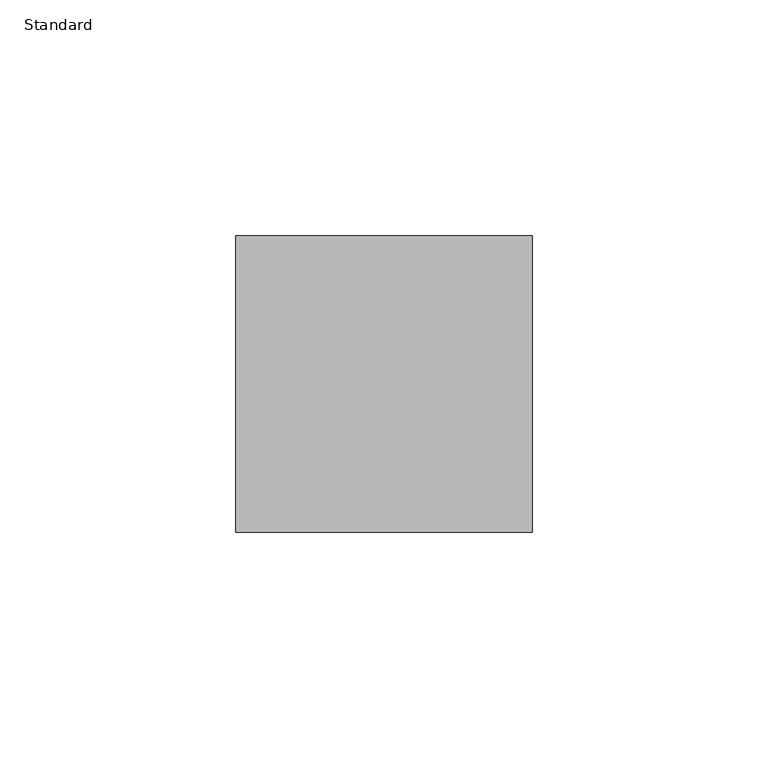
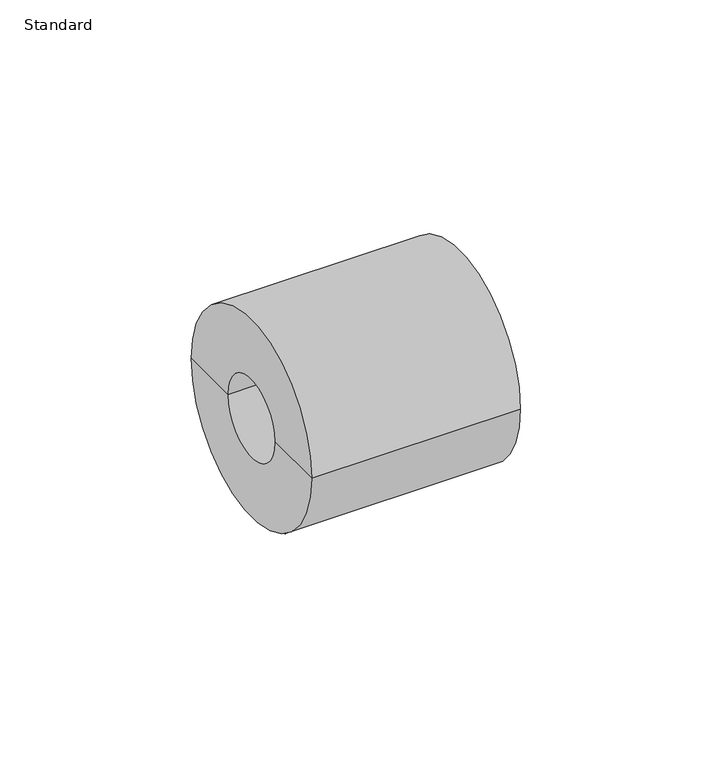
"""IFC4 building model written with IfcOpenShell, lengths in millimetres: pipe fitting geometry, Durapipe_PipeFitting_PVC_ReducingBush : Standard."""

from ifc_helpers import new_model, si_unit, frame, origin, place, context, project, spatial, polyline, circle_curve, source, transform, mapped, element, save
from ifc_brep_helpers import plane_surface, cylinder_surface, revolved_surface, advanced_brep


def standard_444fa2a4(model_context):
    return source(origin(), model_context, "Body", "AdvancedBrep", [
        advanced_brep(
        [(-16.0, -12.5, 0.0), (-16.0, 12.5, 0.0), (-16.0, 31.5, 0.0), (-16.0, -31.5, 0.0), (0.0, -12.5, 0.0), (0.0, 12.5, 0.0), (0.0, -16.0, 0.0), (0.0, 16.0, 0.0), (47.0, -16.0, 0.0), (47.0, 16.0, 0.0), (47.0, -31.5, 0.0), (47.0, 31.5, 0.0)],
        [
            (0, 1, circle_curve(frame((-16.0, 0.0, 0.0), z_axis=(1.0, 0.0, 0.0), x_axis=(0.0, 1.0, 0.0)), 12.5)),
            (1, 2),
            (2, 3, circle_curve(frame((-16.0, 0.0, 0.0), z_axis=(-1.0, 0.0, 0.0), x_axis=(0.0, 1.0, 0.0)), 31.5)),
            (3, 0),
            (1, 0, circle_curve(frame((-16.0, 0.0, 0.0), z_axis=(1.0, 0.0, 0.0), x_axis=(0.0, 1.0, 0.0)), 12.5)),
            (3, 2, circle_curve(frame((-16.0, 0.0, 0.0), z_axis=(-1.0, 0.0, 0.0), x_axis=(0.0, 1.0, 0.0)), 31.5)),
            (4, 5, circle_curve(frame((0.0, 0.0, 0.0), z_axis=(1.0, 0.0, 0.0), x_axis=(0.0, 1.0, 0.0)), 12.5)),
            (5, 1),
            (0, 4),
            (5, 4, circle_curve(frame((0.0, 0.0, 0.0), z_axis=(1.0, 0.0, 0.0), x_axis=(0.0, 1.0, 0.0)), 12.5)),
            (6, 7, circle_curve(frame((0.0, 0.0, 0.0), z_axis=(1.0, 0.0, 0.0), x_axis=(0.0, 1.0, 0.0)), 16.0)),
            (7, 5),
            (4, 6),
            (7, 6, circle_curve(frame((0.0, 0.0, 0.0), z_axis=(1.0, 0.0, 0.0), x_axis=(0.0, 1.0, 0.0)), 16.0)),
            (8, 9, circle_curve(frame((47.0, 0.0, 0.0), z_axis=(1.0, 0.0, 0.0), x_axis=(0.0, 1.0, 0.0)), 16.0)),
            (9, 7),
            (6, 8),
            (9, 8, circle_curve(frame((47.0, 0.0, 0.0), z_axis=(1.0, 0.0, 0.0), x_axis=(0.0, 1.0, 0.0)), 16.0)),
            (10, 11, circle_curve(frame((47.0, 0.0, 0.0), z_axis=(1.0, 0.0, 0.0), x_axis=(0.0, 1.0, 0.0)), 31.5)),
            (11, 9),
            (8, 10),
            (11, 10, circle_curve(frame((47.0, 0.0, 0.0), z_axis=(1.0, 0.0, 0.0), x_axis=(0.0, 1.0, 0.0)), 31.5)),
            (2, 11),
            (10, 3),
        ],
        [
            plane_surface(frame((-16.0, 0.0, 0.0), z_axis=(-1.0, 0.0, 0.0), x_axis=(0.0, 1.0, 0.0))),
            revolved_surface(polyline([(-16.0, 12.5, 0.0), (0.0, 12.5, 0.0)]), (2033.0, 0.0, 0.0), (-1.0, 0.0, 0.0)),
            plane_surface(frame((0.0, 0.0, 0.0), z_axis=(1.0, 0.0, 0.0), x_axis=(0.0, 1.0, 0.0))),
            revolved_surface(polyline([(0.0, 16.0, 0.0), (47.0, 16.0, 0.0)]), (2033.0, 0.0, 0.0), (-1.0, 0.0, 0.0)),
            plane_surface(frame((47.0, 0.0, 0.0), z_axis=(1.0, 0.0, 0.0), x_axis=(0.0, 1.0, 0.0))),
            cylinder_surface(frame((2033.0, 0.0, 0.0), z_axis=(-1.0, 0.0, 0.0), x_axis=(0.0, 1.0, 0.0)), 31.5),
        ],
        [
            (0, [[1, 2, 3, 4]]),
            (0, [[5, -4, 6, -2]]),
            (1, [[7, 8, -1, 9]]),
            (1, [[10, -9, -5, -8]]),
            (2, [[11, 12, -7, 13]]),
            (2, [[14, -13, -10, -12]]),
            (3, [[15, 16, -11, 17]]),
            (3, [[18, -17, -14, -16]]),
            (4, [[19, 20, -15, 21]]),
            (4, [[22, -21, -18, -20]]),
            (5, [[-3, 23, -19, 24]]),
            (5, [[-6, -24, -22, -23]]),
        ],
    ),
    ])


if __name__ == "__main__":
    model = new_model("IFC4")
    model_context = context("Model", 3, world=origin())
    ifc_project = project(units=[si_unit("LENGTHUNIT", "METRE", prefix="MILLI")], contexts=[model_context])
    site = spatial("IfcSite", under=ifc_project)
    building = spatial("IfcBuilding", under=site)
    placement = place(None, origin())
    standard_shape = standard_444fa2a4(model_context)
    element("IfcPipeFitting", 1, ObjectType="Durapipe_PipeFitting_PVC_ReducingBush : Standard", at=placement, inside=building, context=model_context, shape_type="MappedRepresentation", body=[
        mapped(standard_shape, transform((0.0, 0.0, 0.0), x_axis=(1.0, 0.0, 0.0), y_axis=(0.0, 1.0, 0.0), z_axis=(0.0, 0.0, 1.0))),
    ])
    save(model, "model.ifc")
